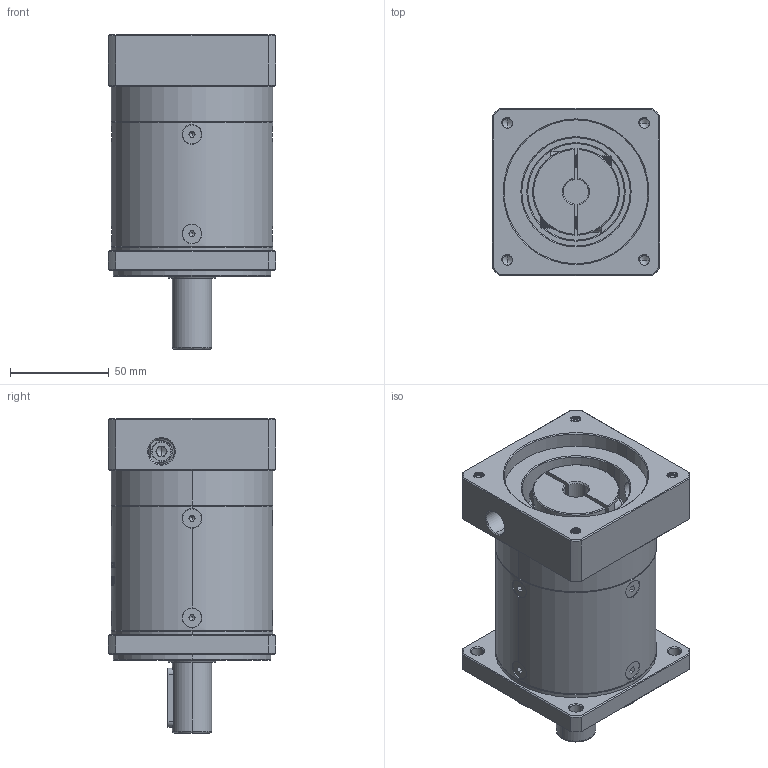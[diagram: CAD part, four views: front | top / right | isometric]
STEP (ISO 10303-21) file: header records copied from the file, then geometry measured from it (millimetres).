
FILE_DESCRIPTION (( 'STEP AP214' ), '1' );
FILE_NAME ('ZF80-D20-L2-12.7-73-69.5X69.5-M6.step', '2022-05-08T09:14:47', ( '' ), ( 'Microsoft' ), 'SwSTEP 2.0', 'SolidWorks 2016', '' );
FILE_SCHEMA (( 'AUTOMOTIVE_DESIGN' ));
Length unit declared in the file: millimetre
Products named in the file (1): ZF80-D20-L2-12.7-73-69.5X69.5-M6
Bounding box: 85 x 85 x 159.5 mm (x, y, z)
Volume: 647627.8 mm3; surface area: 94268.1 mm2
Topology: 13 solids, 13 shells, 1981 faces, 5132 edges, 3245 vertices
Faces by surface type: plane 896, cylinder 408, cone 340, bspline 320, torus 17
Entity records: 107839 total; most frequent: CARTESIAN_POINT 41280, ORIENTED_EDGE 10204, DIRECTION 8046, EDGE_CURVE 5102, VERTEX_POINT 3245, VECTOR 2766, LINE 2766, AXIS2_PLACEMENT_3D 2640
